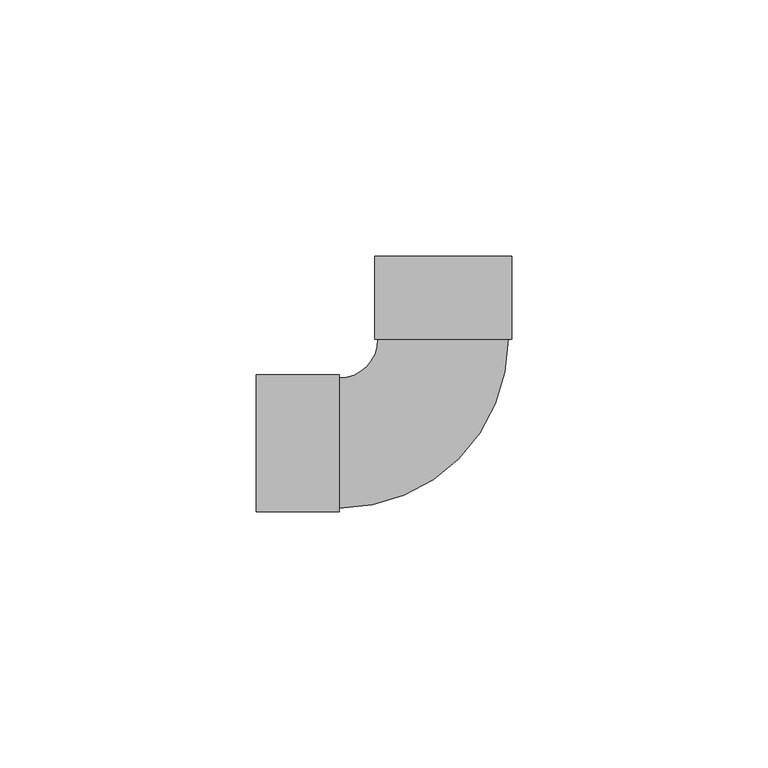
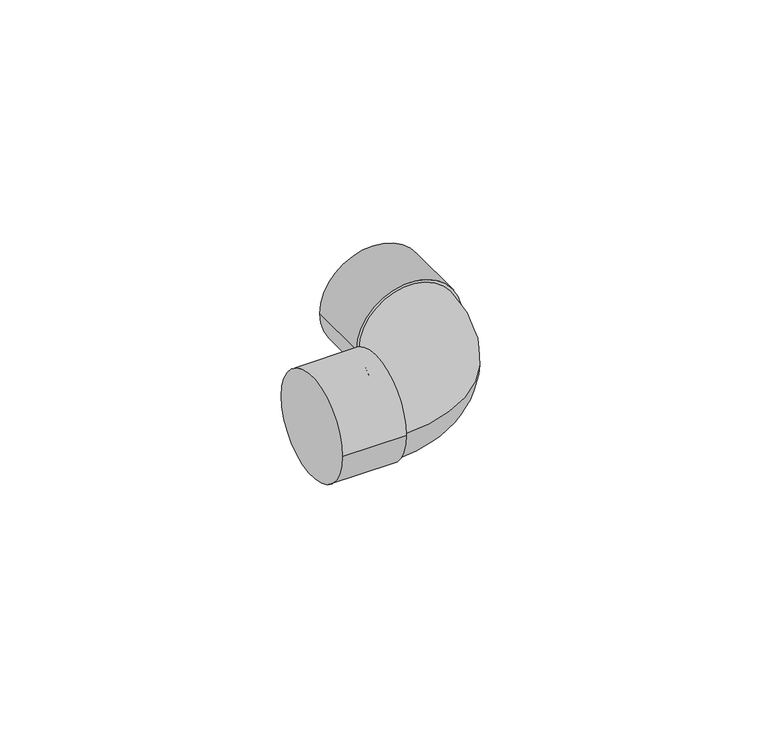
"""IFC4 building model written with IfcOpenShell, lengths in millimetres: pipe fitting geometry, Cotovelo - Soldado - CU : Padrão."""

from ifc_helpers import new_model, si_unit, point, frame, origin, place, context, project, spatial, circle_curve, ellipse_curve, trimmed, source, transform, mapped, element, save
from ifc_brep_helpers import plane_surface, cylinder_surface, revolved_surface, advanced_brep


def pipe_fitting_1806753b(model_context):
    return source(origin(), model_context, "Body", "AdvancedBrep", [
        advanced_brep(
        [(-12.7, 20.274, 0.0), (-20.274, 12.7, 0.0), (-20.274, -12.7, 0.0), (12.7, 20.274, 0.0), (-36.412, -13.354, 0.0), (-36.412, 13.354, 0.0), (-20.274, -13.354, 0.0), (-20.274, 13.354, 0.0), (-13.354, 36.412, 0.0), (13.354, 36.412, 0.0), (-13.354, 20.274, 0.0), (13.354, 20.274, 0.0)],
        [
            (0, 1, circle_curve(frame((-20.274, 20.274, 0.0), z_axis=(0.0, 0.0, -1.0), x_axis=(0.0, -1.0, 0.0)), 7.574)),
            (1, 2, circle_curve(frame((-20.274, 0.0, 0.0), z_axis=(1.0, 0.0, 0.0), x_axis=(0.0, 1.0, 0.0)), 12.7)),
            (2, 3, circle_curve(frame((-20.274, 20.274, 0.0), z_axis=(0.0, 0.0, 1.0), x_axis=(0.0, -1.0, 0.0)), 32.974)),
            (3, 0, circle_curve(frame((0.0, 20.274, 0.0), z_axis=(0.0, -1.0, 0.0), x_axis=(-1.0, 0.0, 0.0)), 12.7)),
            (0, 3, circle_curve(frame((0.0, 20.274, 0.0), z_axis=(0.0, -1.0, 0.0), x_axis=(-1.0, 0.0, 0.0)), 12.7)),
            (2, 1, circle_curve(frame((-20.274, 0.0, 0.0), z_axis=(1.0, 0.0, 0.0), x_axis=(0.0, 1.0, 0.0)), 12.7)),
            (4, 5, circle_curve(frame((-36.412, 0.0, 0.0), z_axis=(-1.0, 0.0, 0.0), x_axis=(0.0, 1.0, 0.0)), 13.354)),
            (5, 4, circle_curve(frame((-36.412, 0.0, 0.0), z_axis=(-1.0, 0.0, 0.0), x_axis=(0.0, 1.0, 0.0)), 13.354)),
            (6, 7, circle_curve(frame((-20.274, 0.0, 0.0), z_axis=(1.0, 0.0, 0.0), x_axis=(0.0, 1.0, 0.0)), 13.354)),
            (7, 6, circle_curve(frame((-20.274, 0.0, 0.0), z_axis=(1.0, 0.0, 0.0), x_axis=(0.0, 1.0, 0.0)), 13.354)),
            (4, 6),
            (7, 5),
            (8, 9, circle_curve(frame((0.0, 36.412, 0.0), z_axis=(0.0, 1.0, 0.0), x_axis=(1.0, 0.0, 0.0)), 13.354)),
            (9, 8, circle_curve(frame((0.0, 36.412, 0.0), z_axis=(0.0, 1.0, 0.0), x_axis=(1.0, 0.0, 0.0)), 13.354)),
            (10, 11, circle_curve(frame((0.0, 20.274, 0.0), z_axis=(0.0, -1.0, 0.0), x_axis=(1.0, 0.0, 0.0)), 13.354)),
            (11, 10, circle_curve(frame((0.0, 20.274, 0.0), z_axis=(0.0, -1.0, 0.0), x_axis=(1.0, 0.0, 0.0)), 13.354)),
            (8, 10),
            (11, 9),
        ],
        [
            revolved_surface(trimmed(ellipse_curve(frame((-20.274, 0.0, 0.0), z_axis=(-1.0, 0.0, 0.0), x_axis=(0.0, 1.0, 0.0)), 12.7, 12.7), [point((-20.274, -12.7, 0.0))], [point((-20.274, 12.7, 0.0))], True, "CARTESIAN"), (-20.274, 20.274, 0.0), (0.0, 0.0, 1.0)),
            revolved_surface(trimmed(ellipse_curve(frame((-20.274, 0.0, 0.0), z_axis=(-1.0, 0.0, 0.0), x_axis=(0.0, 1.0, 0.0)), 12.7, 12.7), [point((-20.274, 12.7, 0.0))], [point((-20.274, -12.7, 0.0))], True, "CARTESIAN"), (-20.274, 20.274, 0.0), (0.0, 0.0, 1.0)),
            plane_surface(frame((-36.412, 0.0, 0.0), z_axis=(-1.0, 0.0, 0.0), x_axis=(0.0, 0.0, 1.0))),
            plane_surface(frame((-20.274, 0.0, 0.0), z_axis=(1.0, 0.0, 0.0), x_axis=(0.0, 0.0, 1.0))),
            cylinder_surface(frame((-36.412, 0.0, 0.0), z_axis=(-1.0, 0.0, 0.0), x_axis=(0.0, 1.0, 0.0)), 13.354),
            plane_surface(frame((0.0, 36.412, 0.0), z_axis=(0.0, 1.0, 0.0), x_axis=(0.0, 0.0, 1.0))),
            plane_surface(frame((0.0, 20.274, 0.0), z_axis=(0.0, -1.0, 0.0), x_axis=(0.0, 0.0, 1.0))),
            cylinder_surface(frame((0.0, 36.412, 0.0), z_axis=(0.0, 1.0, 0.0), x_axis=(1.0, 0.0, 0.0)), 13.354),
        ],
        [
            (0, [[1, 2, 3, 4]]),
            (1, [[-1, 5, -3, 6]]),
            (2, [[7, 8]]),
            (3, [[9, 10], [-2, -6]]),
            (4, [[-7, 11, -10, 12]]),
            (4, [[-8, -12, -9, -11]]),
            (5, [[13, 14]]),
            (6, [[15, 16], [-4, -5]]),
            (7, [[-13, 17, -16, 18]]),
            (7, [[-14, -18, -15, -17]]),
        ],
    ),
    ])


if __name__ == "__main__":
    model = new_model("IFC4")
    model_context = context("Model", 3, world=origin())
    ifc_project = project(units=[si_unit("LENGTHUNIT", "METRE", prefix="MILLI")], contexts=[model_context])
    site = spatial("IfcSite", under=ifc_project)
    building = spatial("IfcBuilding", under=site)
    placement = place(None, origin())
    pipe_fitting_shape = pipe_fitting_1806753b(model_context)
    element("IfcPipeFitting", 1, ObjectType="Cotovelo - Soldado - CU : Padrão", at=placement, inside=building, context=model_context, shape_type="MappedRepresentation", body=[
        mapped(pipe_fitting_shape, transform((0.0, 0.0, 0.0), x_axis=(1.0, 0.0, 0.0), y_axis=(0.0, 1.0, 0.0), z_axis=(0.0, 0.0, 1.0))),
    ])
    save(model, "model.ifc")
